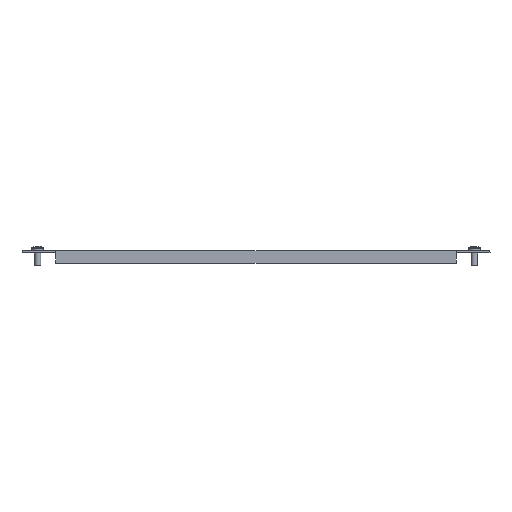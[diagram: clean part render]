
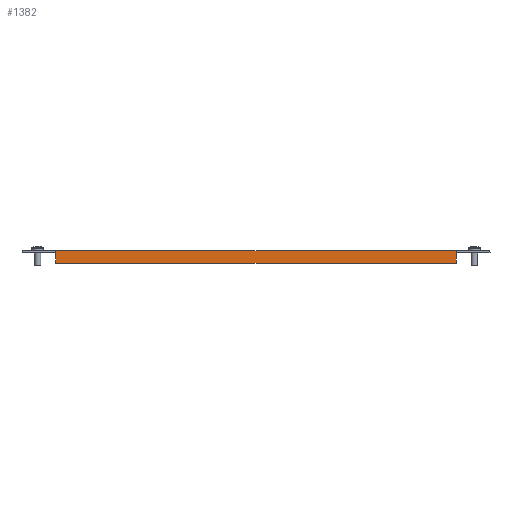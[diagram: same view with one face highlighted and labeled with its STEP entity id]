
A CAD part, front view. The second image highlights one B-rep face of the part: STEP entity #1382.
In plain terms, the highlighted planar face has unit normal (0, -1, 0).
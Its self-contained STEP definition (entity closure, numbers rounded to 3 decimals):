
#45 = DIRECTION ( 'NONE',  ( 0., 0., -1. ) ) ;
#166 = CARTESIAN_POINT ( 'NONE',  ( 160.5, -99., -2.4 ) ) ;
#199 = VERTEX_POINT ( 'NONE', #1029 ) ;
#214 = VECTOR ( 'NONE', #2392, 1000. ) ;
#225 = PLANE ( 'NONE',  #2667 ) ;
#254 = EDGE_CURVE ( 'NONE', #2278, #2480, #1492, .T. ) ;
#269 = CARTESIAN_POINT ( 'NONE',  ( 160.5, -99., -10. ) ) ;
#279 = CARTESIAN_POINT ( 'NONE',  ( 0., -99., 0. ) ) ;
#321 = CARTESIAN_POINT ( 'NONE',  ( -160.5, -99., -10. ) ) ;
#454 = VERTEX_POINT ( 'NONE', #2408 ) ;
#488 = CARTESIAN_POINT ( 'NONE',  ( -160.5, -99., -10. ) ) ;
#499 = CARTESIAN_POINT ( 'NONE',  ( 0., -99., 0. ) ) ;
#544 = VECTOR ( 'NONE', #2470, 1000. ) ;
#589 = ORIENTED_EDGE ( 'NONE', *, *, #955, .F. ) ;
#624 = EDGE_CURVE ( 'NONE', #2480, #454, #1138, .T. ) ;
#687 = EDGE_CURVE ( 'NONE', #199, #1424, #3017, .T. ) ;
#757 = ORIENTED_EDGE ( 'NONE', *, *, #2116, .F. ) ;
#784 = CARTESIAN_POINT ( 'NONE',  ( -160.5, -99., -1.8 ) ) ;
#839 = VECTOR ( 'NONE', #1323, 1000. ) ;
#955 = EDGE_CURVE ( 'NONE', #199, #2860, #2541, .T. ) ;
#1029 = CARTESIAN_POINT ( 'NONE',  ( 160.5, -99., -2.4 ) ) ;
#1064 = DIRECTION ( 'NONE',  ( 0., 0., 1. ) ) ;
#1138 = LINE ( 'NONE', #3004, #839 ) ;
#1183 = EDGE_LOOP ( 'NONE', ( #589, #2763, #2624, #2978, #2761, #757 ) ) ;
#1200 = LINE ( 'NONE', #488, #2240 ) ;
#1235 = DIRECTION ( 'NONE',  ( 0., -1., 0. ) ) ;
#1323 = DIRECTION ( 'NONE',  ( 0., 0., 1. ) ) ;
#1334 = CARTESIAN_POINT ( 'NONE',  ( -160.5, -99., -2.4 ) ) ;
#1382 = ADVANCED_FACE ( 'NONE', ( #2400 ), #225, .T. ) ;
#1384 = DIRECTION ( 'NONE',  ( 0., 0., -1. ) ) ;
#1424 = VERTEX_POINT ( 'NONE', #2654 ) ;
#1492 = LINE ( 'NONE', #784, #2373 ) ;
#1543 = VECTOR ( 'NONE', #1384, 1000. ) ;
#1657 = CARTESIAN_POINT ( 'NONE',  ( 160.5, -99., -10. ) ) ;
#2116 = EDGE_CURVE ( 'NONE', #2860, #2278, #1200, .T. ) ;
#2117 = DIRECTION ( 'NONE',  ( -1., 0., 0. ) ) ;
#2224 = LINE ( 'NONE', #499, #214 ) ;
#2240 = VECTOR ( 'NONE', #2117, 1000. ) ;
#2278 = VERTEX_POINT ( 'NONE', #321 ) ;
#2373 = VECTOR ( 'NONE', #1064, 1000. ) ;
#2392 = DIRECTION ( 'NONE',  ( -1., 0., 0. ) ) ;
#2400 = FACE_OUTER_BOUND ( 'NONE', #1183, .T. ) ;
#2408 = CARTESIAN_POINT ( 'NONE',  ( -160.5, -99., 0. ) ) ;
#2470 = DIRECTION ( 'NONE',  ( 0., 0., 1. ) ) ;
#2480 = VERTEX_POINT ( 'NONE', #1334 ) ;
#2541 = LINE ( 'NONE', #1657, #1543 ) ;
#2624 = ORIENTED_EDGE ( 'NONE', *, *, #2859, .T. ) ;
#2654 = CARTESIAN_POINT ( 'NONE',  ( 160.5, -99., 0. ) ) ;
#2667 = AXIS2_PLACEMENT_3D ( 'NONE', #279, #1235, #45 ) ;
#2761 = ORIENTED_EDGE ( 'NONE', *, *, #254, .F. ) ;
#2763 = ORIENTED_EDGE ( 'NONE', *, *, #687, .T. ) ;
#2859 = EDGE_CURVE ( 'NONE', #1424, #454, #2224, .T. ) ;
#2860 = VERTEX_POINT ( 'NONE', #269 ) ;
#2978 = ORIENTED_EDGE ( 'NONE', *, *, #624, .F. ) ;
#3004 = CARTESIAN_POINT ( 'NONE',  ( -160.5, -99., 0. ) ) ;
#3017 = LINE ( 'NONE', #166, #544 ) ;
